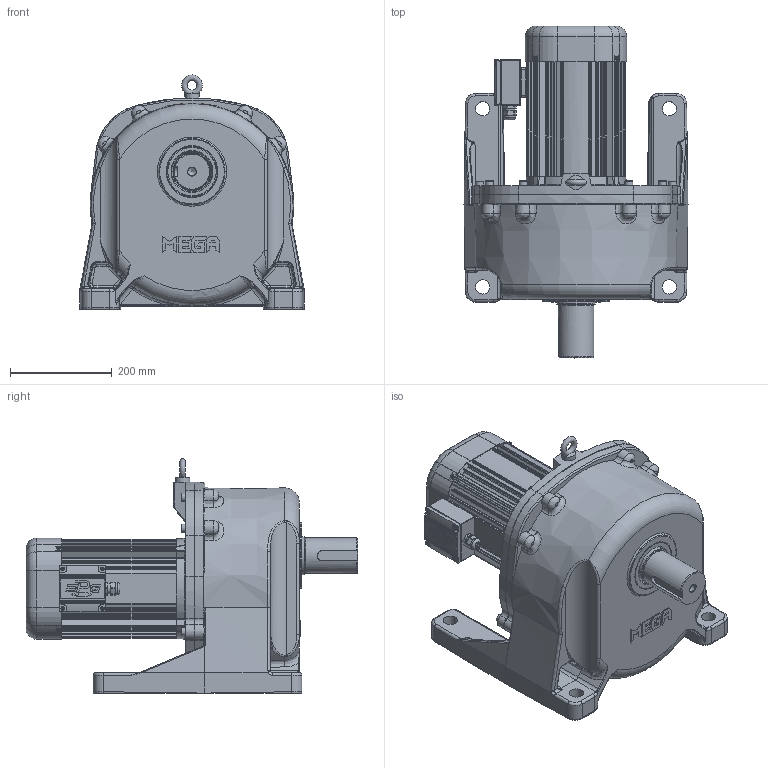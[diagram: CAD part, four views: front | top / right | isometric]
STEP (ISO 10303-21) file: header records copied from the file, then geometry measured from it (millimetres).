
FILE_DESCRIPTION(/* description */ (''),/* implementation_level */ '2;1');
FILE_NAME(/* name */ 'Z:\동력 3D 파일\PML270_2.2kW_3D.stp',/* time_stamp */ '2021-11-30T15:49:37+09:00',/* author */ ('jaebok'),/* organization */ (''),/* preprocessor_version */ 'ST-DEVELOPER v18.1',/* originating_system */ 'Autodesk Inventor 2022',/* authorisation */ '');
FILE_SCHEMA (('AUTOMOTIVE_DESIGN { 1 0 10303 214 3 1 1 }'));
Length unit declared in the file: millimetre
Products named in the file (1): 부품16
Bounding box: 440 x 652 x 460 mm (x, y, z)
Volume: 14816327.9 mm3; surface area: 2281664 mm2
Topology: 11 solids, 33 shells, 3545 faces, 8895 edges, 5370 vertices
Faces by surface type: plane 1124, cylinder 989, bspline 718, torus 345, cone 264, sphere 105
Full cylindrical faces by diameter (mm): 3.25 x1, 3.5 x4, 3.6 x4, 4 x21, 5 x13, 6 x5, 6.647 x4, 7 x8, 8 x5, 9 x4, 10 x10, 12 x9, 12.5 x1, 13.835 x9, 15 x1, 16 x9, 17 x8, 20 x2, 21 x1, 23.6 x1, 24 x1, 25 x1, 28 x5, 31 x1, 36 x1, 48 x1, 50 x1, 55 x1, 60 x1, 62 x2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
Entity records: 140671 total; most frequent: CARTESIAN_POINT 56080, ORIENTED_EDGE 17432, DIRECTION 16589, EDGE_CURVE 8716, AXIS2_PLACEMENT_3D 6714, VERTEX_POINT 5373, EDGE_LOOP 3797, CIRCLE 3695
